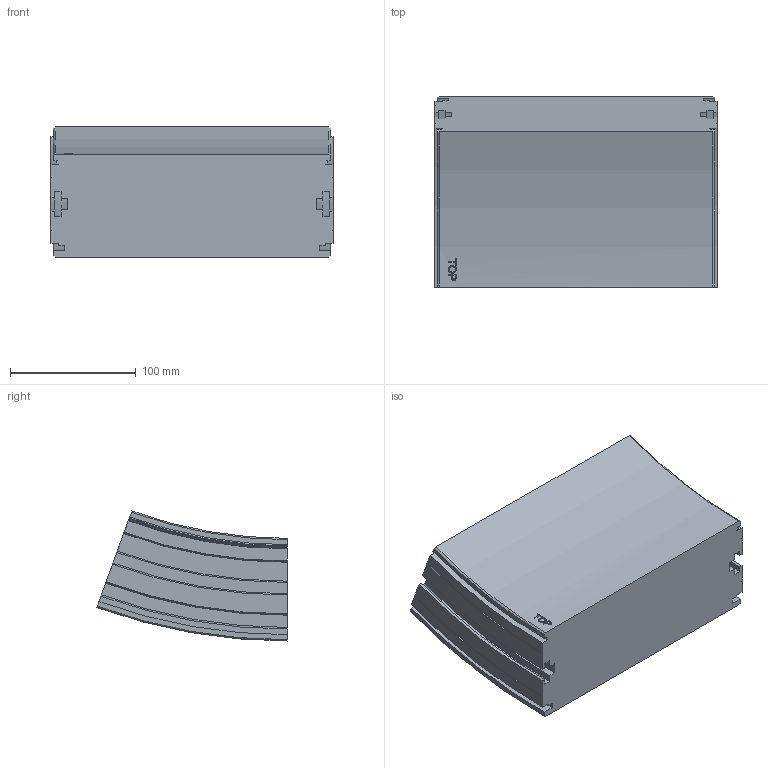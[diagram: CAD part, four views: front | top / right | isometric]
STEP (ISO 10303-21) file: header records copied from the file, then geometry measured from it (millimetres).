
FILE_DESCRIPTION(/* description */ ('VERTIKALKURVA S220 R400'),/* implementation_level */ '2;1');
FILE_NAME(/* name */ '\\carryline.intra\privat\users\mathias\Desktop\Tillfälliga filer\220-5645+220-2000-UPP-01.stp',/* time_stamp */ '2018-11-29T13:35:04+01:00',/* author */ ('MD'),/* organization */ ('CARRYLINE'),/* preprocessor_version */ 'ST-DEVELOPER v17',/* originating_system */ 'Autodesk Inventor 2018',/* authorisation */ '');
FILE_SCHEMA (('AUTOMOTIVE_DESIGN { 1 0 10303 214 3 1 1 }'));
Length unit declared in the file: millimetre
Products named in the file (1): 220-5645+220-2000-UPP-01
Bounding box: 224 x 151.17 x 103.24 mm (x, y, z)
Volume: 2477691.2 mm3; surface area: 141048.1 mm2
Topology: 1 solids, 1 shells, 113 faces, 318 edges, 212 vertices
Faces by surface type: plane 48, cylinder 31, bspline 14, cone 14, torus 6
Entity records: 8361 total; most frequent: CARTESIAN_POINT 5393, ORIENTED_EDGE 636, DIRECTION 576, EDGE_CURVE 318, VERTEX_POINT 212, AXIS2_PLACEMENT_3D 199, LINE 178, VECTOR 178
